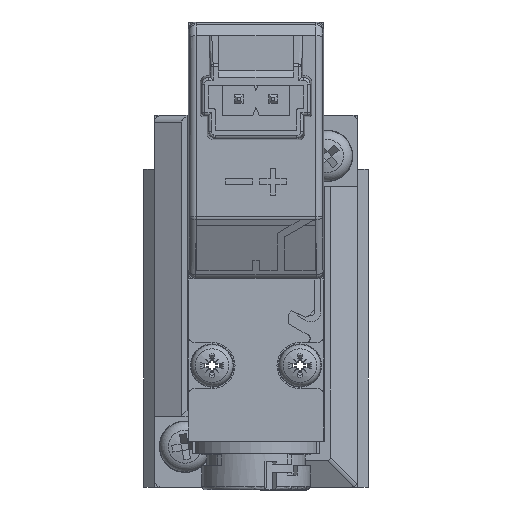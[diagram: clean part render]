
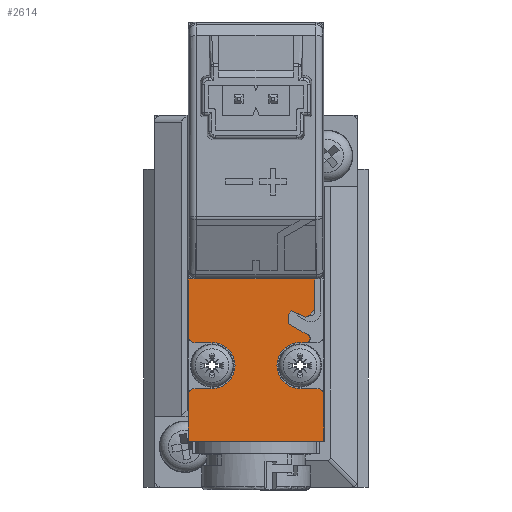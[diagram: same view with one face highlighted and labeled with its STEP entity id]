
A CAD part, left-side view. The second image highlights one B-rep face of the part: STEP entity #2614.
In plain terms, the highlighted planar face has unit normal (-1, 0, 0).
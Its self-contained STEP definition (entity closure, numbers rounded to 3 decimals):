
#1507=CARTESIAN_POINT('',(-53.8,5.,1.65));
#1508=VERTEX_POINT('',#1507);
#1515=CARTESIAN_POINT('',(-53.8,-4.35,1.65));
#1516=VERTEX_POINT('',#1515);
#1517=CARTESIAN_POINT('',(-53.8,-4.35,1.65));
#1518=DIRECTION('',(0.0,1.0,0.0));
#1519=VECTOR('',#1518,9.35);
#1520=LINE('',#1517,#1519);
#1521=EDGE_CURVE('',#1516,#1508,#1520,.T.);
#1921=CARTESIAN_POINT('',(-53.8,-5.,-10.35));
#1922=VERTEX_POINT('',#1921);
#1929=CARTESIAN_POINT('',(-53.8,5.,-10.35));
#1930=VERTEX_POINT('',#1929);
#1931=CARTESIAN_POINT('',(-53.8,5.,-10.35));
#1932=DIRECTION('',(0.0,-1.0,0.0));
#1933=VECTOR('',#1932,10.);
#1934=LINE('',#1931,#1933);
#1935=EDGE_CURVE('',#1930,#1922,#1934,.T.);
#1996=CARTESIAN_POINT('',(-53.8,-3.855,-2.49));
#1997=VERTEX_POINT('',#1996);
#2004=CARTESIAN_POINT('',(-53.8,-3.705,-3.05));
#2005=VERTEX_POINT('',#2004);
#2006=CARTESIAN_POINT('',(-53.8,-3.705,-2.75));
#2007=DIRECTION('',(1.0,0.0,0.0));
#2008=DIRECTION('',(0.0,0.0,-1.0));
#2009=AXIS2_PLACEMENT_3D('',#2006,#2007,#2008);
#2010=CIRCLE('',#2009,0.3);
#2011=EDGE_CURVE('',#1997,#2005,#2010,.T.);
#2128=CARTESIAN_POINT('',(-53.8,-5.,-6.95));
#2129=VERTEX_POINT('',#2128);
#2136=CARTESIAN_POINT('',(-53.8,-5.,-10.35));
#2137=DIRECTION('',(0.0,0.0,1.0));
#2138=VECTOR('',#2137,3.4);
#2139=LINE('',#2136,#2138);
#2140=EDGE_CURVE('',#1922,#2129,#2139,.T.);
#2192=CARTESIAN_POINT('',(-53.8,3.25,-6.45));
#2193=VERTEX_POINT('',#2192);
#2200=CARTESIAN_POINT('',(-53.8,3.25,-3.05));
#2201=VERTEX_POINT('',#2200);
#2202=CARTESIAN_POINT('',(-53.8,3.25,-4.75));
#2203=DIRECTION('',(1.0,0.0,0.0));
#2204=DIRECTION('',(0.0,0.0,-1.0));
#2205=AXIS2_PLACEMENT_3D('',#2202,#2203,#2204);
#2206=CIRCLE('',#2205,1.7);
#2207=EDGE_CURVE('',#2201,#2193,#2206,.T.);
#2285=CARTESIAN_POINT('',(-53.8,4.5,-3.05));
#2286=VERTEX_POINT('',#2285);
#2287=CARTESIAN_POINT('',(-53.8,4.5,-3.05));
#2288=DIRECTION('',(0.0,-1.0,0.0));
#2289=VECTOR('',#2288,1.25);
#2290=LINE('',#2287,#2289);
#2291=EDGE_CURVE('',#2286,#2201,#2290,.T.);
#2309=CARTESIAN_POINT('',(-53.8,5.,-2.55));
#2310=VERTEX_POINT('',#2309);
#2311=CARTESIAN_POINT('',(-53.8,4.5,-2.55));
#2312=DIRECTION('',(-1.0,0.0,0.0));
#2313=DIRECTION('',(0.0,-1.0,0.0));
#2314=AXIS2_PLACEMENT_3D('',#2311,#2312,#2313);
#2315=CIRCLE('',#2314,0.5);
#2316=EDGE_CURVE('',#2310,#2286,#2315,.T.);
#2333=CARTESIAN_POINT('',(-53.8,5.,-6.95));
#2334=VERTEX_POINT('',#2333);
#2341=CARTESIAN_POINT('',(-53.8,4.5,-6.45));
#2342=VERTEX_POINT('',#2341);
#2343=CARTESIAN_POINT('',(-53.8,4.5,-6.95));
#2344=DIRECTION('',(-1.0,0.0,0.0));
#2345=DIRECTION('',(0.0,0.0,-1.0));
#2346=AXIS2_PLACEMENT_3D('',#2343,#2344,#2345);
#2347=CIRCLE('',#2346,0.5);
#2348=EDGE_CURVE('',#2342,#2334,#2347,.T.);
#2366=CARTESIAN_POINT('',(-53.8,3.25,-6.45));
#2367=DIRECTION('',(0.0,1.0,0.0));
#2368=VECTOR('',#2367,1.25);
#2369=LINE('',#2366,#2368);
#2370=EDGE_CURVE('',#2193,#2342,#2369,.T.);
#2392=CARTESIAN_POINT('',(-53.8,-3.25,-3.05));
#2393=VERTEX_POINT('',#2392);
#2400=CARTESIAN_POINT('',(-53.8,-3.25,-6.45));
#2401=VERTEX_POINT('',#2400);
#2402=CARTESIAN_POINT('',(-53.8,-3.25,-4.75));
#2403=DIRECTION('',(1.0,0.0,0.0));
#2404=DIRECTION('',(0.0,0.0,1.0));
#2405=AXIS2_PLACEMENT_3D('',#2402,#2403,#2404);
#2406=CIRCLE('',#2405,1.7);
#2407=EDGE_CURVE('',#2401,#2393,#2406,.T.);
#2467=CARTESIAN_POINT('',(-53.8,-3.25,-3.05));
#2468=DIRECTION('',(0.0,-1.0,0.0));
#2469=VECTOR('',#2468,0.455);
#2470=LINE('',#2467,#2469);
#2471=EDGE_CURVE('',#2393,#2005,#2470,.T.);
#2492=CARTESIAN_POINT('',(-53.8,-4.5,-6.45));
#2493=VERTEX_POINT('',#2492);
#2494=CARTESIAN_POINT('',(-53.8,-4.5,-6.45));
#2495=DIRECTION('',(0.0,1.0,0.0));
#2496=VECTOR('',#2495,1.25);
#2497=LINE('',#2494,#2496);
#2498=EDGE_CURVE('',#2493,#2401,#2497,.T.);
#2516=CARTESIAN_POINT('',(-53.8,-4.5,-6.95));
#2517=DIRECTION('',(-1.0,0.0,0.0));
#2518=DIRECTION('',(0.0,1.0,0.0));
#2519=AXIS2_PLACEMENT_3D('',#2516,#2517,#2518);
#2520=CIRCLE('',#2519,0.5);
#2521=EDGE_CURVE('',#2129,#2493,#2520,.T.);
#2527=CARTESIAN_POINT('',(-53.8,0.,-4.35));
#2528=DIRECTION('',(-1.0,0.0,0.0));
#2529=DIRECTION('',(0.0,-1.0,0.0));
#2530=AXIS2_PLACEMENT_3D('',#2527,#2528,#2529);
#2531=PLANE('',#2530);
#2532=ORIENTED_EDGE('',*,*,#2011,.F.);
#2533=CARTESIAN_POINT('',(-53.8,-2.4,-1.65));
#2534=VERTEX_POINT('',#2533);
#2535=CARTESIAN_POINT('',(-53.8,-3.855,-2.49));
#2536=DIRECTION('',(0.0,0.866,0.5));
#2537=VECTOR('',#2536,1.68);
#2538=LINE('',#2535,#2537);
#2539=EDGE_CURVE('',#1997,#2534,#2538,.T.);
#2540=ORIENTED_EDGE('',*,*,#2539,.T.);
#2541=CARTESIAN_POINT('',(-53.8,-2.4,-0.95));
#2542=VERTEX_POINT('',#2541);
#2543=CARTESIAN_POINT('',(-53.8,-2.4,-1.65));
#2544=DIRECTION('',(0.0,0.0,1.0));
#2545=VECTOR('',#2544,0.7);
#2546=LINE('',#2543,#2545);
#2547=EDGE_CURVE('',#2534,#2542,#2546,.T.);
#2548=ORIENTED_EDGE('',*,*,#2547,.T.);
#2549=CARTESIAN_POINT('',(-53.8,-2.6,-0.709));
#2550=VERTEX_POINT('',#2549);
#2551=CARTESIAN_POINT('',(-53.8,-2.4,-0.95));
#2552=DIRECTION('',(0.0,-0.639,0.77));
#2553=VECTOR('',#2552,0.313);
#2554=LINE('',#2551,#2553);
#2555=EDGE_CURVE('',#2542,#2550,#2554,.T.);
#2556=ORIENTED_EDGE('',*,*,#2555,.T.);
#2557=CARTESIAN_POINT('',(-53.8,-3.689,-1.171));
#2558=VERTEX_POINT('',#2557);
#2559=CARTESIAN_POINT('',(-53.8,-2.6,-0.709));
#2560=DIRECTION('',(0.0,-0.92,-0.391));
#2561=VECTOR('',#2560,1.183);
#2562=LINE('',#2559,#2561);
#2563=EDGE_CURVE('',#2550,#2558,#2562,.T.);
#2564=ORIENTED_EDGE('',*,*,#2563,.T.);
#2565=CARTESIAN_POINT('',(-53.8,-3.918,-1.036));
#2566=VERTEX_POINT('',#2565);
#2567=CARTESIAN_POINT('',(-53.8,-3.3,-0.25));
#2568=DIRECTION('',(-1.0,0.,0.));
#2569=DIRECTION('',(0.,0.389,0.921));
#2570=AXIS2_PLACEMENT_3D('',#2567,#2568,#2569);
#2571=CIRCLE('',#2570,1.0);
#2572=EDGE_CURVE('',#2558,#2566,#2571,.T.);
#2573=ORIENTED_EDGE('',*,*,#2572,.T.);
#2574=CARTESIAN_POINT('',(-53.8,-4.35,-0.604));
#2575=VERTEX_POINT('',#2574);
#2576=CARTESIAN_POINT('',(-53.8,-3.918,-1.036));
#2577=DIRECTION('',(0.0,-0.707,0.707));
#2578=VECTOR('',#2577,0.611);
#2579=LINE('',#2576,#2578);
#2580=EDGE_CURVE('',#2566,#2575,#2579,.T.);
#2581=ORIENTED_EDGE('',*,*,#2580,.T.);
#2582=CARTESIAN_POINT('',(-53.8,-4.35,-0.604));
#2583=DIRECTION('',(0.0,0.0,1.0));
#2584=VECTOR('',#2583,2.254);
#2585=LINE('',#2582,#2584);
#2586=EDGE_CURVE('',#2575,#1516,#2585,.T.);
#2587=ORIENTED_EDGE('',*,*,#2586,.T.);
#2588=ORIENTED_EDGE('',*,*,#1521,.T.);
#2589=CARTESIAN_POINT('',(-53.8,5.,1.65));
#2590=DIRECTION('',(0.0,0.0,-1.0));
#2591=VECTOR('',#2590,4.2);
#2592=LINE('',#2589,#2591);
#2593=EDGE_CURVE('',#1508,#2310,#2592,.T.);
#2594=ORIENTED_EDGE('',*,*,#2593,.T.);
#2595=ORIENTED_EDGE('',*,*,#2316,.T.);
#2596=ORIENTED_EDGE('',*,*,#2291,.T.);
#2597=ORIENTED_EDGE('',*,*,#2207,.T.);
#2598=ORIENTED_EDGE('',*,*,#2370,.T.);
#2599=ORIENTED_EDGE('',*,*,#2348,.T.);
#2600=CARTESIAN_POINT('',(-53.8,5.,-6.95));
#2601=DIRECTION('',(0.0,0.0,-1.0));
#2602=VECTOR('',#2601,3.4);
#2603=LINE('',#2600,#2602);
#2604=EDGE_CURVE('',#2334,#1930,#2603,.T.);
#2605=ORIENTED_EDGE('',*,*,#2604,.T.);
#2606=ORIENTED_EDGE('',*,*,#1935,.T.);
#2607=ORIENTED_EDGE('',*,*,#2140,.T.);
#2608=ORIENTED_EDGE('',*,*,#2521,.T.);
#2609=ORIENTED_EDGE('',*,*,#2498,.T.);
#2610=ORIENTED_EDGE('',*,*,#2407,.T.);
#2611=ORIENTED_EDGE('',*,*,#2471,.T.);
#2612=EDGE_LOOP('',(#2532,#2540,#2548,#2556,#2564,#2573,#2581,#2587,#2588,#2594,#2595,#2596,#2597,#2598,#2599,#2605,#2606,#2607,#2608,#2609,#2610,#2611));
#2613=FACE_OUTER_BOUND('',#2612,.T.);
#2614=ADVANCED_FACE('',(#2613),#2531,.T.);
